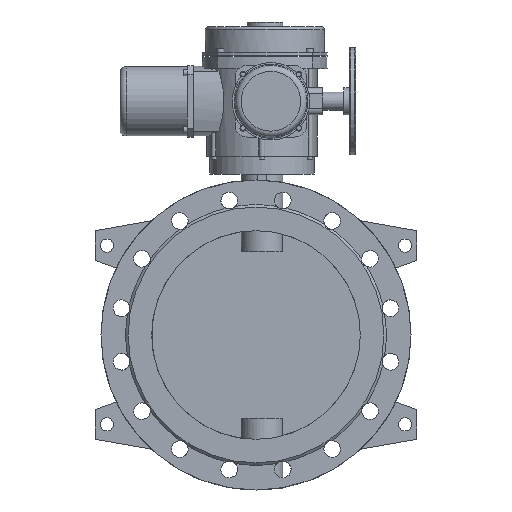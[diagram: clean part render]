
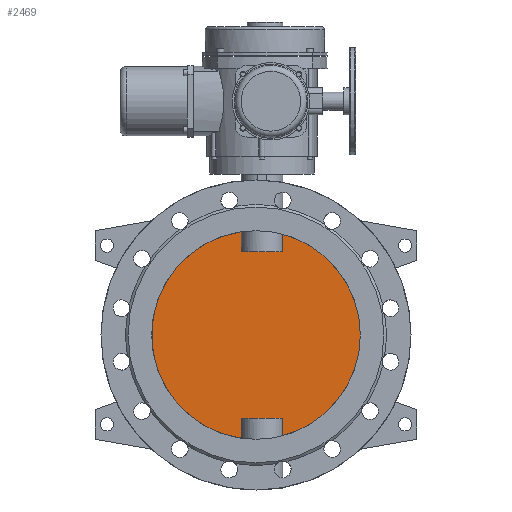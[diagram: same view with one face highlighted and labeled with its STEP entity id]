
A CAD part, front view. The second image highlights one B-rep face of the part: STEP entity #2469.
In plain terms, the highlighted planar face has unit normal (0, -1, 0).
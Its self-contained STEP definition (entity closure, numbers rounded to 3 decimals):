
#2469=ADVANCED_FACE('',(#6301),#6303,.F.);
#6301=FACE_BOUND('',#6302,.T.);
#6302=EDGE_LOOP('',(#8626,#8627,#8628,#8629,#8630,#8631,#8632,#8633));
#6303=PLANE('',#6304);
#6304=AXIS2_PLACEMENT_3D('',#6305,#6306,#6307);
#6305=CARTESIAN_POINT('',(0.,-5.,0.));
#6306=DIRECTION('',(0.,1.,0.));
#6307=DIRECTION('',(1.,0.,0.));
#8626=ORIENTED_EDGE('',*,*,#9831,.T.);
#8627=ORIENTED_EDGE('',*,*,#9847,.T.);
#8628=ORIENTED_EDGE('',*,*,#9848,.T.);
#8629=ORIENTED_EDGE('',*,*,#9849,.T.);
#8630=ORIENTED_EDGE('',*,*,#9833,.T.);
#8631=ORIENTED_EDGE('',*,*,#9850,.T.);
#8632=ORIENTED_EDGE('',*,*,#9851,.T.);
#8633=ORIENTED_EDGE('',*,*,#9852,.T.);
#9831=EDGE_CURVE('',#11296,#11297,#11298,.F.);
#9833=EDGE_CURVE('',#11301,#11299,#11302,.F.);
#9847=EDGE_CURVE('',#11297,#11324,#11325,.T.);
#9848=EDGE_CURVE('',#11324,#11326,#11327,.F.);
#9849=EDGE_CURVE('',#11326,#11301,#11328,.F.);
#9850=EDGE_CURVE('',#11299,#11329,#11330,.F.);
#9851=EDGE_CURVE('',#11329,#11331,#11332,.F.);
#9852=EDGE_CURVE('',#11331,#11296,#11333,.T.);
#11296=VERTEX_POINT('',#19146);
#11297=VERTEX_POINT('',#19147);
#11298=CIRCLE('',#19148,175.);
#11299=VERTEX_POINT('',#19152);
#11301=VERTEX_POINT('',#19250);
#11302=CIRCLE('',#19251,175.);
#11324=VERTEX_POINT('',#19418);
#11325=LINE('',#19419,#19420);
#11326=VERTEX_POINT('',#19422);
#11327=LINE('',#19423,#19424);
#11328=LINE('',#19426,#19427);
#11329=VERTEX_POINT('',#19429);
#11330=LINE('',#19430,#19431);
#11331=VERTEX_POINT('',#19433);
#11332=LINE('',#19434,#19435);
#11333=LINE('',#19437,#19438);
#19146=CARTESIAN_POINT('',(44.641,-5.,-169.21));
#19147=CARTESIAN_POINT('',(44.641,-5.,169.21));
#19148=AXIS2_PLACEMENT_3D('',#19149,#19150,#19151);
#19149=CARTESIAN_POINT('',(0.,-5.,0.));
#19150=DIRECTION('',(0.,1.,0.));
#19151=DIRECTION('',(0.255,0.,0.967));
#19152=CARTESIAN_POINT('',(-24.641,-5.,-173.257));
#19250=CARTESIAN_POINT('',(-24.641,-5.,173.257));
#19251=AXIS2_PLACEMENT_3D('',#19252,#19253,#19254);
#19252=CARTESIAN_POINT('',(0.,-5.,0.));
#19253=DIRECTION('',(0.,1.,0.));
#19254=DIRECTION('',(-0.141,0.,-0.99));
#19418=CARTESIAN_POINT('',(44.641,-5.,140.));
#19419=CARTESIAN_POINT('',(44.641,-5.,169.21));
#19420=VECTOR('',#19421,1.);
#19421=DIRECTION('',(0.,0.,-1.));
#19422=CARTESIAN_POINT('',(-24.641,-5.,140.));
#19423=CARTESIAN_POINT('',(-24.641,-5.,140.));
#19424=VECTOR('',#19425,1.);
#19425=DIRECTION('',(1.,0.,0.));
#19426=CARTESIAN_POINT('',(-24.641,-5.,173.257));
#19427=VECTOR('',#19428,1.);
#19428=DIRECTION('',(0.,0.,-1.));
#19429=CARTESIAN_POINT('',(-24.641,-5.,-140.));
#19430=CARTESIAN_POINT('',(-24.641,-5.,-140.));
#19431=VECTOR('',#19432,1.);
#19432=DIRECTION('',(0.,0.,-1.));
#19433=CARTESIAN_POINT('',(44.641,-5.,-140.));
#19434=CARTESIAN_POINT('',(44.641,-5.,-140.));
#19435=VECTOR('',#19436,1.);
#19436=DIRECTION('',(-1.,0.,0.));
#19437=CARTESIAN_POINT('',(44.641,-5.,-140.));
#19438=VECTOR('',#19439,1.);
#19439=DIRECTION('',(0.,0.,-1.));
